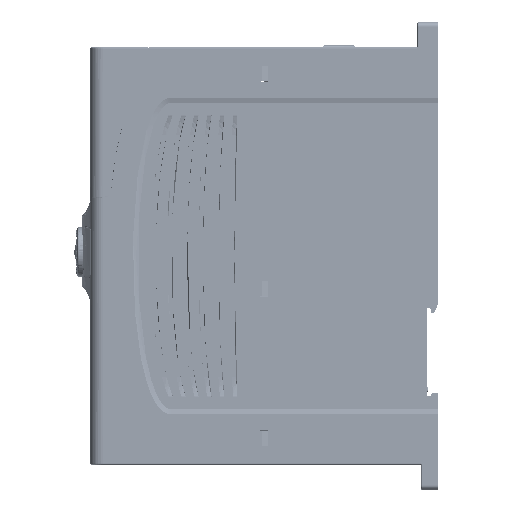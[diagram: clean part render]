
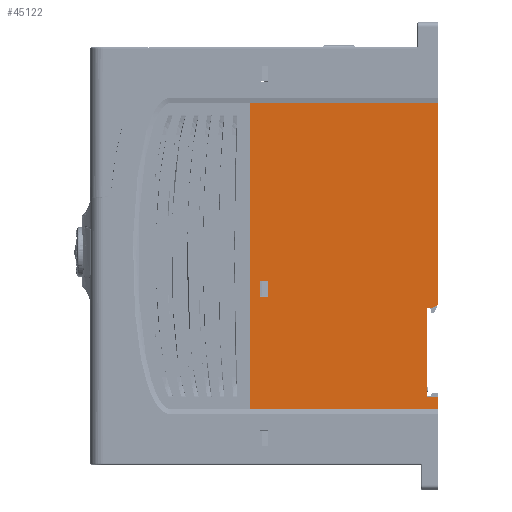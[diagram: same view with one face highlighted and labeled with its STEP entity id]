
A CAD part, left-side view. The second image highlights one B-rep face of the part: STEP entity #45122.
In plain terms, the highlighted planar face has unit normal (-1, 0, 0).
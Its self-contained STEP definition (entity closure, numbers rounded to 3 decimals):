
#2385=DIRECTION('',(0.,0.,-1.));
#2386=VECTOR('',#2385,80.);
#2387=CARTESIAN_POINT('',(-39.5,-4.,60.5));
#2388=LINE('',#2387,#2386);
#2555=DIRECTION('',(0.,0.,-1.));
#2556=VECTOR('',#2555,4.6);
#2557=CARTESIAN_POINT('',(-39.5,-4.,-55.9));
#2558=LINE('',#2557,#2556);
#8366=DIRECTION('',(0.,0.,1.));
#8367=VECTOR('',#8366,121.);
#8368=CARTESIAN_POINT('',(-39.5,70.,-60.5));
#8369=LINE('',#8368,#8367);
#12303=DIRECTION('',(0.,-1.,0.));
#12304=VECTOR('',#12303,3.);
#12305=CARTESIAN_POINT('',(-39.5,66.,-9.75));
#12306=LINE('',#12305,#12304);
#12307=DIRECTION('',(0.,0.,1.));
#12308=VECTOR('',#12307,6.5);
#12309=CARTESIAN_POINT('',(-39.5,66.,-16.25));
#12310=LINE('',#12309,#12308);
#12311=DIRECTION('',(0.,1.,0.));
#12312=VECTOR('',#12311,3.);
#12313=CARTESIAN_POINT('',(-39.5,63.,-16.25));
#12314=LINE('',#12313,#12312);
#12315=DIRECTION('',(0.,0.,-1.));
#12316=VECTOR('',#12315,6.5);
#12317=CARTESIAN_POINT('',(-39.5,63.,-9.75));
#12318=LINE('',#12317,#12316);
#12319=DIRECTION('',(0.,-0.894,0.447));
#12320=VECTOR('',#12319,2.236);
#12321=CARTESIAN_POINT('',(-39.5,-2.,-20.5));
#12322=LINE('',#12321,#12320);
#12323=DIRECTION('',(0.,-1.,0.));
#12324=VECTOR('',#12323,2.);
#12325=CARTESIAN_POINT('',(-39.5,0.,-20.5));
#12326=LINE('',#12325,#12324);
#12327=DIRECTION('',(0.,0.,-1.));
#12328=VECTOR('',#12327,35.4);
#12329=CARTESIAN_POINT('',(-39.5,0.,-20.5));
#12330=LINE('',#12329,#12328);
#12331=DIRECTION('',(0.,1.,0.));
#12332=VECTOR('',#12331,4.);
#12333=CARTESIAN_POINT('',(-39.5,-4.,-55.9));
#12334=LINE('',#12333,#12332);
#12335=DIRECTION('',(0.,-1.,0.));
#12336=VECTOR('',#12335,74.);
#12337=CARTESIAN_POINT('',(-39.5,70.,60.5));
#12338=LINE('',#12337,#12336);
#13151=DIRECTION('',(0.,-1.,0.));
#13152=VECTOR('',#13151,74.);
#13153=CARTESIAN_POINT('',(-39.5,70.,-60.5));
#13154=LINE('',#13153,#13152);
#28546=CARTESIAN_POINT('',(-39.5,0.,-20.5));
#28547=CARTESIAN_POINT('',(-39.5,0.,-55.9));
#28548=VERTEX_POINT('',#28546);
#28549=VERTEX_POINT('',#28547);
#29308=CARTESIAN_POINT('',(-39.5,-4.,-55.9));
#29309=VERTEX_POINT('',#29308);
#30370=CARTESIAN_POINT('',(-39.5,-4.,60.5));
#30371=VERTEX_POINT('',#30370);
#30372=CARTESIAN_POINT('',(-39.5,-4.,-60.5));
#30373=VERTEX_POINT('',#30372);
#30600=CARTESIAN_POINT('',(-39.5,66.,-9.75));
#30601=CARTESIAN_POINT('',(-39.5,63.,-9.75));
#30602=VERTEX_POINT('',#30600);
#30603=VERTEX_POINT('',#30601);
#30604=CARTESIAN_POINT('',(-39.5,63.,-16.25));
#30605=VERTEX_POINT('',#30604);
#30606=CARTESIAN_POINT('',(-39.5,66.,-16.25));
#30607=VERTEX_POINT('',#30606);
#30918=CARTESIAN_POINT('',(-39.5,-2.,-20.5));
#30919=CARTESIAN_POINT('',(-39.5,-4.,-19.5));
#30920=VERTEX_POINT('',#30918);
#30921=VERTEX_POINT('',#30919);
#32489=CARTESIAN_POINT('',(-39.5,70.,-60.5));
#32491=VERTEX_POINT('',#32489);
#32492=CARTESIAN_POINT('',(-39.5,70.,60.5));
#32493=VERTEX_POINT('',#32492);
#45092=CARTESIAN_POINT('',(-39.5,0.,-60.5));
#45093=DIRECTION('',(-1.,0.,0.));
#45094=DIRECTION('',(0.,0.,1.));
#45095=AXIS2_PLACEMENT_3D('',#45092,#45093,#45094);
#45096=PLANE('',#45095);
#45098=ORIENTED_EDGE('',*,*,#45097,.F.);
#45100=ORIENTED_EDGE('',*,*,#45099,.F.);
#45101=ORIENTED_EDGE('',*,*,#38919,.T.);
#45103=ORIENTED_EDGE('',*,*,#45102,.F.);
#45104=ORIENTED_EDGE('',*,*,#36853,.T.);
#45106=ORIENTED_EDGE('',*,*,#45105,.F.);
#45107=ORIENTED_EDGE('',*,*,#40406,.T.);
#45108=ORIENTED_EDGE('',*,*,#45086,.T.);
#45109=ORIENTED_EDGE('',*,*,#36759,.T.);
#45110=EDGE_LOOP('',(#45098,#45100,#45101,#45103,#45104,#45106,#45107,#45108,
#45109));
#45111=FACE_OUTER_BOUND('',#45110,.F.);
#45113=ORIENTED_EDGE('',*,*,#45112,.F.);
#45115=ORIENTED_EDGE('',*,*,#45114,.F.);
#45117=ORIENTED_EDGE('',*,*,#45116,.F.);
#45119=ORIENTED_EDGE('',*,*,#45118,.F.);
#45120=EDGE_LOOP('',(#45113,#45115,#45117,#45119));
#45121=FACE_BOUND('',#45120,.F.);
#36759=EDGE_CURVE('',#30371,#30921,#2388,.T.);
#36853=EDGE_CURVE('',#29309,#30373,#2558,.T.);
#38919=EDGE_CURVE('',#28548,#28549,#12330,.T.);
#40406=EDGE_CURVE('',#32491,#32493,#8369,.T.);
#45086=EDGE_CURVE('',#32493,#30371,#12338,.T.);
#45097=EDGE_CURVE('',#30920,#30921,#12322,.T.);
#45099=EDGE_CURVE('',#28548,#30920,#12326,.T.);
#45102=EDGE_CURVE('',#29309,#28549,#12334,.T.);
#45105=EDGE_CURVE('',#32491,#30373,#13154,.T.);
#45112=EDGE_CURVE('',#30602,#30603,#12306,.T.);
#45114=EDGE_CURVE('',#30607,#30602,#12310,.T.);
#45116=EDGE_CURVE('',#30605,#30607,#12314,.T.);
#45118=EDGE_CURVE('',#30603,#30605,#12318,.T.);
#45122=ADVANCED_FACE('',(#45111,#45121),#45096,.T.);
